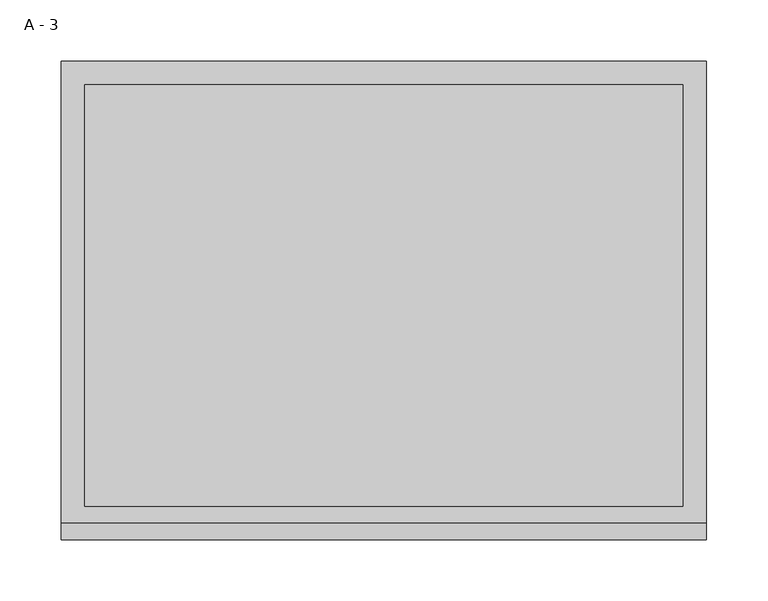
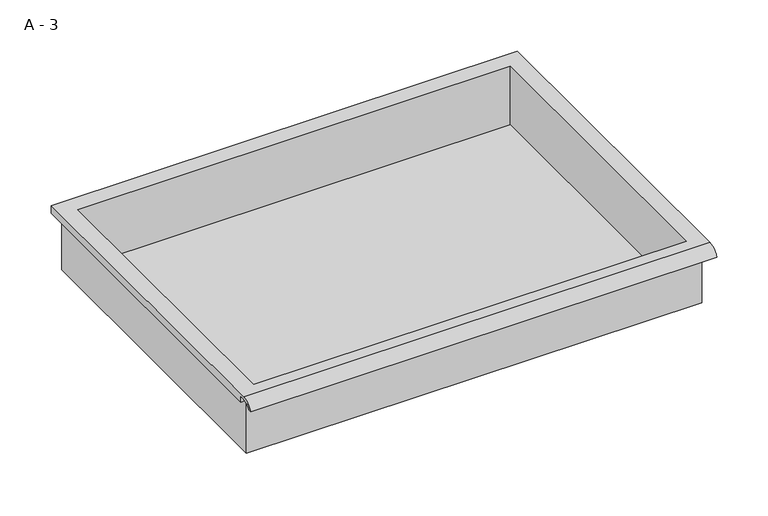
"""IFC4 building model written with IfcOpenShell, lengths in millimetres: furniture geometry, HermanMiller_CoStruc_CO207_Drawer : A - 3."""

from ifc_helpers import new_model, si_unit, frame, origin, place, context, project, spatial, polyline, circle_curve, source, transform, mapped, element, save
from ifc_brep_helpers import plane_surface, cylinder_surface, revolved_surface, advanced_brep


def a_3_c1a7feba(model_context):
    return source(origin(), model_context, "Body", "AdvancedBrep", [
        advanced_brep(
        [(-257.1076517, -176.2125, 801.7002), (257.2423483, -176.2125, 801.7002), (257.2423483, -176.2125, 865.2002), (263.5923483, -176.2125, 865.2002), (263.5923483, -176.2125, 871.5073341), (-263.4576517, -176.2125, 871.5073341), (-263.4576517, -176.2125, 865.2002), (-257.1076517, -176.2125, 865.2002), (257.2423483, 185.7375, 801.7002), (-257.1076517, 185.7375, 801.7002), (-257.1076517, 185.7375, 865.2002), (257.2423483, 185.7375, 865.2002), (263.5923483, -181.6070544, 874.7252), (263.5923483, 195.2625, 874.7252), (-263.4576517, 195.2625, 874.7252), (-263.4576517, -181.6070544, 874.7252), (244.5423483, -168.275, 874.7252), (-244.4076517, -168.275, 874.7252), (-244.4076517, 176.2125, 874.7252), (244.5423483, 176.2125, 874.7252), (263.5923483, -195.2625, 865.2002), (263.5923483, -191.8280601, 865.2002), (263.5923483, -180.4714815, 871.5073341), (263.5923483, 195.2625, 865.2002), (-263.4576517, 195.2625, 865.2002), (-263.4576517, -180.4714815, 871.5073341), (-263.4576517, -191.8280601, 865.2002), (-263.4576517, -195.2625, 865.2002), (-244.4076517, -168.275, 804.7263719), (244.5423483, -168.275, 804.7263719), (244.5423483, 176.2125, 804.7263719), (-244.4076517, 176.2125, 804.7263719)],
        [
            (0, 1),
            (1, 2),
            (2, 3),
            (3, 4),
            (4, 5),
            (5, 6),
            (6, 7),
            (7, 0),
            (8, 9),
            (9, 10),
            (10, 11),
            (11, 8),
            (0, 9),
            (8, 1),
            (11, 2),
            (12, 13),
            (13, 14),
            (14, 15),
            (15, 12),
            (16, 17),
            (17, 18),
            (18, 19),
            (19, 16),
            (7, 10),
            (12, 20, circle_curve(frame((263.5923483, -181.6070544, 860.1741859), z_axis=(1.0, 0.0, 0.0), x_axis=(0.0, 1.0, 0.0)), 14.5510141)),
            (20, 21),
            (21, 22, circle_curve(frame((263.5923483, -181.6070544, 860.1741859), z_axis=(-1.0, 0.0, 0.0), x_axis=(0.0, 1.0, 0.0)), 11.3898979)),
            (22, 4),
            (3, 23),
            (23, 13),
            (14, 24),
            (24, 6),
            (5, 25),
            (25, 26, circle_curve(frame((-263.4576517, -181.6070544, 860.1741859), z_axis=(1.0, 0.0, 0.0), x_axis=(0.0, 1.0, 0.0)), 11.3898979)),
            (26, 27),
            (27, 15, circle_curve(frame((-263.4576517, -181.6070544, 860.1741859), z_axis=(-1.0, 0.0, 0.0), x_axis=(0.0, 1.0, 0.0)), 14.5510141)),
            (27, 20),
            (26, 21),
            (25, 22),
            (24, 23),
            (28, 29),
            (29, 30),
            (30, 31),
            (31, 28),
            (28, 17),
            (16, 29),
            (19, 30),
            (18, 31),
        ],
        [
            plane_surface(frame((257.2423483, -176.2125, 801.7002), z_axis=(0.0, -1.0, 0.0), x_axis=(1.0, 0.0, 0.0))),
            plane_surface(frame((257.2423483, 185.7375, 801.7002), z_axis=(0.0, 1.0, 0.0), x_axis=(-1.0, 0.0, 0.0))),
            plane_surface(frame((-257.1076517, -176.2125, 801.7002), z_axis=(0.0, 0.0, -1.0), x_axis=(0.0, 1.0, 0.0))),
            plane_surface(frame((257.2423483, -176.2125, 801.7002), z_axis=(1.0, 0.0, 0.0), x_axis=(0.0, 1.0, 0.0))),
            plane_surface(frame((257.2423483, -176.2125, 874.7252), z_axis=(0.0, 0.0, 1.0), x_axis=(0.0, 1.0, 0.0))),
            plane_surface(frame((-257.1076517, -176.2125, 874.7252), z_axis=(-1.0, 0.0, 0.0), x_axis=(0.0, 1.0, 0.0))),
            plane_surface(frame((263.5923483, 195.2625, 874.7252), z_axis=(1.0, 0.0, 0.0), x_axis=(0.0, -1.0, 0.0))),
            plane_surface(frame((-263.4576517, 195.2625, 874.7252), z_axis=(-1.0, 0.0, 0.0), x_axis=(0.0, 1.0, 0.0))),
            cylinder_surface(frame((-263.4576517, -181.6070544, 860.1741859), z_axis=(1.0, 0.0, 0.0), x_axis=(0.0, 1.0, 0.0)), 14.5510141),
            plane_surface(frame((263.5923483, -195.2625, 865.2002), z_axis=(0.0, -7.251821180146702e-12, -1.0), x_axis=(-1.0, 0.0, 0.0))),
            revolved_surface(polyline([(-263.4576517, -170.21715650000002, 860.1741859), (263.59234829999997, -170.21715650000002, 860.1741859)]), (-263.4576517, -181.6070544, 860.1741859), (-1.0, 0.0, 0.0)),
            plane_surface(frame((263.5923483, -180.4714815, 871.5073341), z_axis=(0.0, -1.7924974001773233e-11, -1.0), x_axis=(-1.0, 0.0, 0.0))),
            plane_surface(frame((263.5923483, -176.2125, 865.2002), z_axis=(0.0, 0.0, -1.0), x_axis=(-1.0, 0.0, 0.0))),
            plane_surface(frame((263.5923483, 195.2625, 865.2002), z_axis=(0.0, 1.0, 0.0), x_axis=(-1.0, 0.0, 0.0))),
            plane_surface(frame((244.5423483, -168.275, 804.7263719), z_axis=(0.0, 0.0, 1.0), x_axis=(-1.0, 0.0, 0.0))),
            plane_surface(frame((-244.4076517, -168.275, 874.7252), z_axis=(0.0, 1.0, 0.0), x_axis=(0.0, 0.0, -1.0))),
            plane_surface(frame((244.5423483, -168.275, 874.7252), z_axis=(-1.0, 0.0, 0.0), x_axis=(0.0, 0.0, -1.0))),
            plane_surface(frame((244.5423483, 176.2125, 874.7252), z_axis=(0.0, -1.0, 0.0), x_axis=(0.0, 0.0, -1.0))),
            plane_surface(frame((-244.4076517, 176.2125, 874.7252), z_axis=(1.0, 0.0, 0.0), x_axis=(0.0, 0.0, -1.0))),
        ],
        [
            (0, [[1, 2, 3, 4, 5, 6, 7, 8]]),
            (1, [[9, 10, 11, 12]]),
            (2, [[-1, 13, -9, 14]]),
            (3, [[-14, -12, 15, -2]]),
            (4, [[16, 17, 18, 19], [20, 21, 22, 23]]),
            (5, [[-13, -8, 24, -10]]),
            (6, [[-16, 25, 26, 27, 28, -4, 29, 30]]),
            (7, [[31, 32, -6, 33, 34, 35, 36, -18]]),
            (8, [[-25, -19, -36, 37]]),
            (9, [[-26, -37, -35, 38]]),
            (10, [[-27, -38, -34, 39]]),
            (11, [[-28, -39, -33, -5]]),
            (12, [[-29, -3, -15, -11, -24, -7, -32, 40]]),
            (13, [[-30, -40, -31, -17]]),
            (14, [[41, 42, 43, 44]]),
            (15, [[-41, 45, -20, 46]]),
            (16, [[-42, -46, -23, 47]]),
            (17, [[-43, -47, -22, 48]]),
            (18, [[-44, -48, -21, -45]]),
        ],
    ),
    ])


if __name__ == "__main__":
    model = new_model("IFC4")
    model_context = context("Model", 3, world=origin())
    ifc_project = project(units=[si_unit("LENGTHUNIT", "METRE", prefix="MILLI")], contexts=[model_context])
    site = spatial("IfcSite", under=ifc_project)
    building = spatial("IfcBuilding", under=site)
    placement = place(None, origin())
    a_3_shape = a_3_c1a7feba(model_context)
    element("IfcFurniture", 1, ObjectType="HermanMiller_CoStruc_CO207_Drawer : A - 3", at=placement, inside=building, context=model_context, shape_type="MappedRepresentation", body=[
        mapped(a_3_shape, transform((0.0, 0.0, 0.0), x_axis=(1.0, 0.0, 0.0), y_axis=(0.0, 1.0, 0.0), z_axis=(0.0, 0.0, 1.0))),
    ])
    save(model, "model.ifc")
